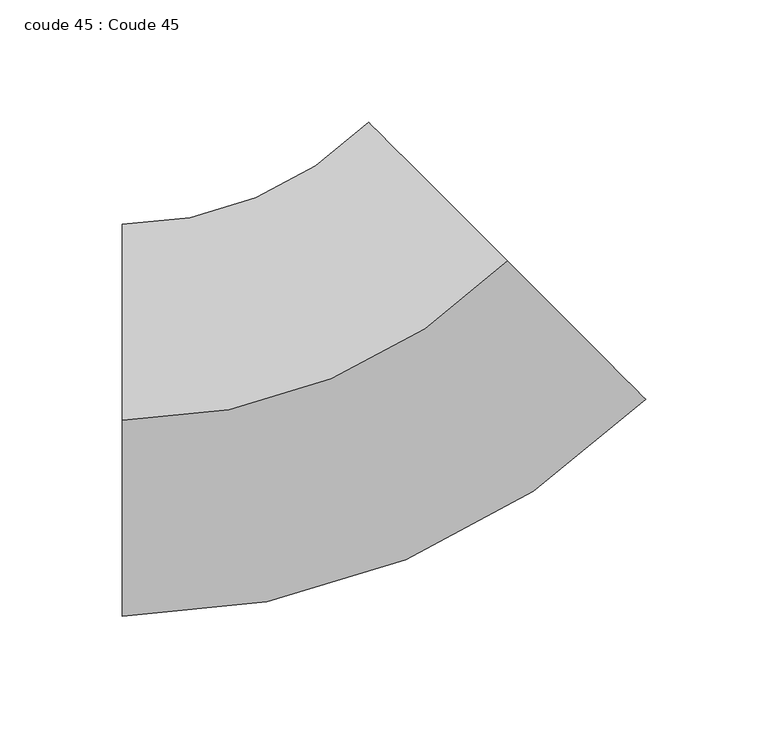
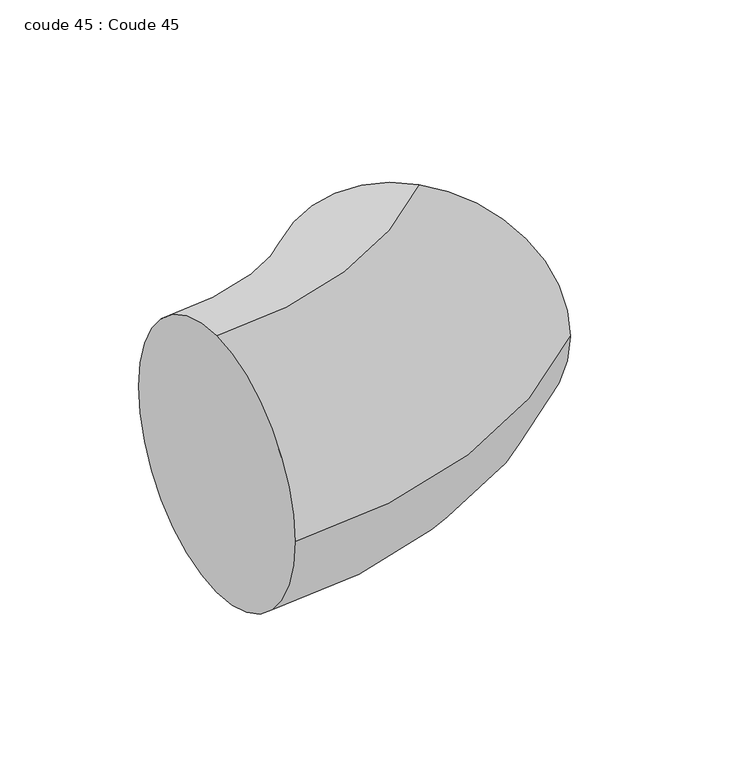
"""IFC4 building model written with IfcOpenShell, lengths in millimetres: duct fitting geometry, coude 45 : Coude 45."""

from ifc_helpers import new_model, si_unit, point, frame, origin, place, context, project, spatial, circle_curve, ellipse_curve, trimmed, source, transform, mapped, element, save
from ifc_brep_helpers import plane_surface, revolved_surface, advanced_brep


def coude_45_coude_45_f8eaf21e(model_context):
    return source(origin(), model_context, "Body", "AdvancedBrep", [
        advanced_brep(
        [(-207.1067812, 277.8174593, 80.0), (-207.1067812, 357.8174593, 0.0), (-207.1067812, 277.8174593, -80.0), (-207.1067812, 197.8174593, 0.0), (-50.0, 342.8932188, 80.0), (6.5685425, 286.3246763, 0.0), (-50.0, 342.8932188, -80.0), (-106.5685425, 399.4617613, 0.0)],
        [
            (0, 1, circle_curve(frame((-207.1067812, 277.8174593, 0.0), z_axis=(-1.0, 0.0, 0.0), x_axis=(0.0, 1.0, 0.0)), 80.0)),
            (1, 2, circle_curve(frame((-207.1067812, 277.8174593, 0.0), z_axis=(-1.0, 0.0, 0.0), x_axis=(0.0, 1.0, 0.0)), 80.0)),
            (2, 3, circle_curve(frame((-207.1067812, 277.8174593, 0.0), z_axis=(-1.0, 0.0, 0.0), x_axis=(0.0, 1.0, 0.0)), 80.0)),
            (3, 0, circle_curve(frame((-207.1067812, 277.8174593, 0.0), z_axis=(-1.0, 0.0, 0.0), x_axis=(0.0, 1.0, 0.0)), 80.0)),
            (4, 5, circle_curve(frame((-50.0, 342.8932188, 0.0), z_axis=(0.707106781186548, 0.707106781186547, 0.0), x_axis=(-0.707106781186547, 0.707106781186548, 0.0)), 80.0)),
            (5, 6, circle_curve(frame((-50.0, 342.8932188, 0.0), z_axis=(0.707106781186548, 0.707106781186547, 0.0), x_axis=(-0.707106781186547, 0.707106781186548, 0.0)), 80.0)),
            (6, 7, circle_curve(frame((-50.0, 342.8932188, 0.0), z_axis=(0.707106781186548, 0.707106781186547, 0.0), x_axis=(-0.707106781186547, 0.707106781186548, 0.0)), 80.0)),
            (7, 4, circle_curve(frame((-50.0, 342.8932188, 0.0), z_axis=(0.707106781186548, 0.707106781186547, 0.0), x_axis=(-0.707106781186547, 0.707106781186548, 0.0)), 80.0)),
            (7, 1, circle_curve(frame((-207.1067812, 500.0, 0.0), z_axis=(0.0, 0.0, -1.0), x_axis=(0.0, -1.0, 0.0)), 142.1825407)),
            (0, 4, circle_curve(frame((-207.1067812, 500.0, 80.0), z_axis=(0.0, 0.0, 1.0), x_axis=(0.0, -1.0, 0.0)), 222.1825407)),
            (6, 2, circle_curve(frame((-207.1067812, 500.0, -80.0), z_axis=(0.0, 0.0, -1.0), x_axis=(0.0, -1.0, 0.0)), 222.1825407)),
            (5, 3, circle_curve(frame((-207.1067812, 500.0, 0.0), z_axis=(0.0, 0.0, -1.0), x_axis=(0.0, -1.0, 0.0)), 302.1825407)),
        ],
        [
            plane_surface(frame((-207.1067812, 277.8174593, 0.0), z_axis=(-1.0, 0.0, 0.0), x_axis=(0.0, 0.0, 1.0))),
            plane_surface(frame((-50.0, 342.8932188, 0.0), z_axis=(0.7071067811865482, 0.707106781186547, 0.0), x_axis=(0.0, 0.0, 1.0))),
            revolved_surface(trimmed(ellipse_curve(frame((-207.1067812, 277.8174593, 0.0), z_axis=(-1.0, 0.0, 0.0), x_axis=(0.0, 1.0, 0.0)), 80.0, 80.0), [point((-207.1067812, 277.8174593, 80.0))], [point((-207.1067812, 357.8174593, 0.0))], True, "CARTESIAN"), (-207.1067812, 500.0, 0.0), (0.0, 0.0, 1.0)),
            revolved_surface(trimmed(ellipse_curve(frame((-207.1067812, 277.8174593, 0.0), z_axis=(-1.0, 0.0, 0.0), x_axis=(0.0, 1.0, 0.0)), 80.0, 80.0), [point((-207.1067812, 357.8174593, 0.0))], [point((-207.1067812, 277.8174593, -80.0))], True, "CARTESIAN"), (-207.1067812, 500.0, 0.0), (0.0, 0.0, 1.0)),
            revolved_surface(trimmed(ellipse_curve(frame((-207.1067812, 277.8174593, 0.0), z_axis=(-1.0, 0.0, 0.0), x_axis=(0.0, 1.0, 0.0)), 80.0, 80.0), [point((-207.1067812, 277.8174593, -80.0))], [point((-207.1067812, 197.8174593, 0.0))], True, "CARTESIAN"), (-207.1067812, 500.0, 0.0), (0.0, 0.0, 1.0)),
            revolved_surface(trimmed(ellipse_curve(frame((-207.1067812, 277.8174593, 0.0), z_axis=(-1.0, 0.0, 0.0), x_axis=(0.0, 1.0, 0.0)), 80.0, 80.0), [point((-207.1067812, 197.8174593, 0.0))], [point((-207.1067812, 277.8174593, 80.0))], True, "CARTESIAN"), (-207.1067812, 500.0, 0.0), (0.0, 0.0, 1.0)),
        ],
        [
            (0, [[1, 2, 3, 4]]),
            (1, [[5, 6, 7, 8]]),
            (2, [[9, -1, 10, -8]]),
            (3, [[11, -2, -9, -7]]),
            (4, [[12, -3, -11, -6]]),
            (5, [[-10, -4, -12, -5]]),
        ],
    ),
    ])


if __name__ == "__main__":
    model = new_model("IFC4")
    model_context = context("Model", 3, world=origin())
    ifc_project = project(units=[si_unit("LENGTHUNIT", "METRE", prefix="MILLI")], contexts=[model_context])
    site = spatial("IfcSite", under=ifc_project)
    building = spatial("IfcBuilding", under=site)
    placement = place(None, origin())
    coude_45_coude_45_shape = coude_45_coude_45_f8eaf21e(model_context)
    element("IfcDuctFitting", 1, ObjectType="coude 45 : Coude 45", at=placement, inside=building, context=model_context, shape_type="MappedRepresentation", body=[
        mapped(coude_45_coude_45_shape, transform((0.0, 0.0, 0.0), x_axis=(1.0, 0.0, 0.0), y_axis=(0.0, 1.0, 0.0), z_axis=(0.0, 0.0, 1.0))),
    ])
    save(model, "model.ifc")
